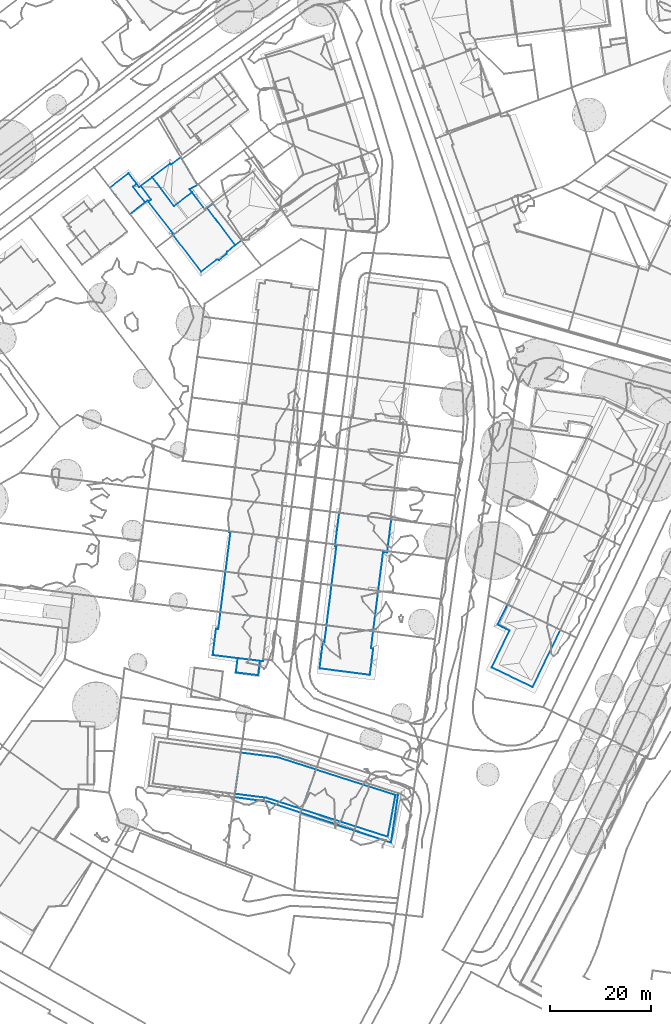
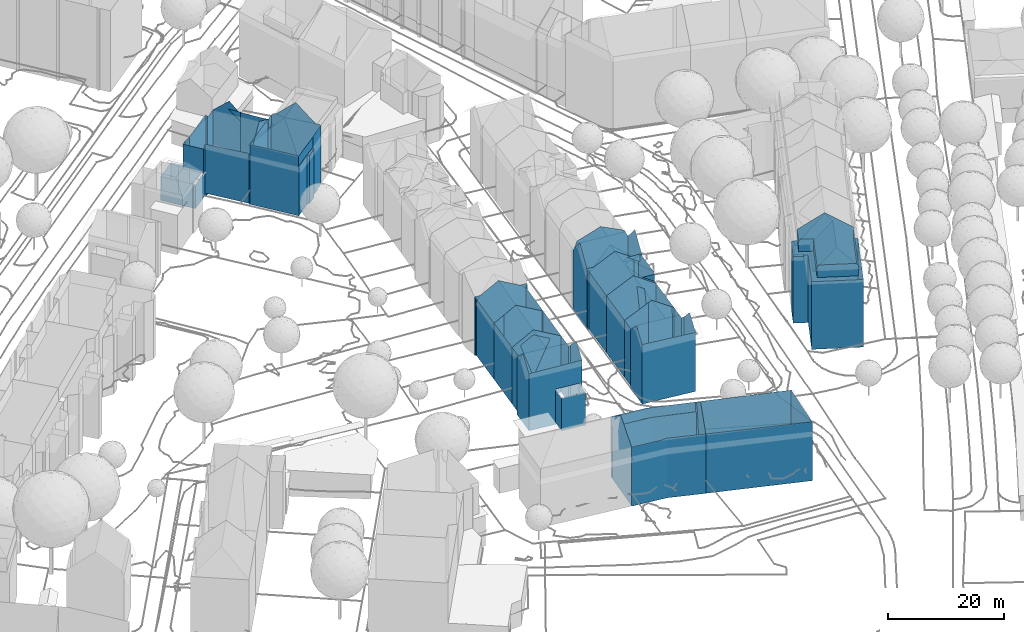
# Not in any storey, part 38 of 477: 13 walls.
"""IFC4 building model written with IfcOpenShell, lengths in metres."""

import ifcopenshell
import ifcopenshell.guid

model = None  # the IFC model being written
_history = None  # IfcOwnerHistory: only IFC2X3 demands one
_inside = {}  # id of a spatial element -> (the spatial element, [elements in it])
_under = {}  # id of a project, library or spatial element -> (it, [spatial elements below it])
_declared = {}  # id of a project -> (the project, [libraries it declares])
_typed = {}  # id of a type object -> (the type object, [elements of that type])
_made_of = {}  # id of a material, layer set ... -> (it, [elements and type objects made of it])


def new_model(schema):
    """Start an empty IFC model of exactly this schema.

    Asked for "IFC4X3", IfcOpenShell would pick the latest addendum, in which some entities
    have other attributes; the version numbers below select the first issue.
    IFC2X3 requires an IfcOwnerHistory on every rooted entity: one is made here for all.
    """
    global model, _history
    if schema == "IFC4X3":
        model = ifcopenshell.file(schema_version=(4, 3, 0, 0))
    else:
        model = ifcopenshell.file(schema=schema)
    _inside.clear()
    _under.clear()
    _declared.clear()
    _typed.clear()
    _made_of.clear()
    _history = None
    if model.schema == "IFC2X3":
        org = make("IfcOrganization", Name="unknown")
        user = make(
            "IfcPersonAndOrganization",
            ThePerson=make("IfcPerson", FamilyName="unknown"),
            TheOrganization=org,
        )
        app = make(
            "IfcApplication",
            ApplicationDeveloper=org,
            Version="unknown",
            ApplicationFullName="unknown",
            ApplicationIdentifier="unknown",
        )
        _history = make(
            "IfcOwnerHistory",
            OwningUser=user,
            OwningApplication=app,
            ChangeAction="ADDED",
            CreationDate=0,
        )
    return model


def make(cls, **values):
    """One entity of the class cls with the attributes given. An attribute that is None is left unset."""
    return model.create_entity(
        cls, **{name: value for name, value in values.items() if value is not None}
    )


def rooted(cls, **values):
    """An entity with a GlobalId (a new one), such as an element, a storey or a relation."""
    return make(cls, GlobalId=ifcopenshell.guid.new(), OwnerHistory=_history, **values)


def si_unit(unit_type, name, prefix=None):
    """IfcSIUnit, for example si_unit("LENGTHUNIT", "METRE", prefix="MILLI")."""
    return make("IfcSIUnit", UnitType=unit_type, Prefix=prefix, Name=name)


def assignment(units):
    """IfcUnitAssignment: the units of a project."""
    return None if units is None else make("IfcUnitAssignment", Units=units)


def point(xyz):
    """IfcCartesianPoint."""
    return None if xyz is None else make("IfcCartesianPoint", Coordinates=xyz)


def direction(xyz):
    """IfcDirection."""
    return None if xyz is None else make("IfcDirection", DirectionRatios=xyz)


def frame(location, z_axis=None, x_axis=None):
    """IfcAxis2Placement3D, a coordinate frame: its origin and axes. An axis left out is left unset."""
    return make(
        "IfcAxis2Placement3D",
        Location=point(location),
        Axis=direction(z_axis),
        RefDirection=direction(x_axis),
    )


def origin_with_axes():
    """The frame at (0, 0, 0) with the z axis (0, 0, 1) and the x axis (1, 0, 0) written out."""
    return frame((0.0, 0.0, 0.0), z_axis=(0.0, 0.0, 1.0), x_axis=(1.0, 0.0, 0.0))


def place(relative_to, where):
    """IfcLocalPlacement: puts the frame where relative to a parent placement (None: the world)."""
    return make(
        "IfcLocalPlacement", PlacementRelTo=relative_to, RelativePlacement=where
    )


def context(
    kind, dimensions, precision=None, world=None, true_north=None, identifier=None
):
    """IfcGeometricRepresentationContext, for example the 3D "Model" context."""
    return make(
        "IfcGeometricRepresentationContext",
        ContextIdentifier=identifier,
        ContextType=kind,
        CoordinateSpaceDimension=dimensions,
        Precision=precision,
        WorldCoordinateSystem=world,
        TrueNorth=true_north,
    )


def subcontext(parent, identifier, kind, view, scale=None):
    """IfcGeometricRepresentationSubContext, for example "Body" below "Model"."""
    return make(
        "IfcGeometricRepresentationSubContext",
        ContextIdentifier=identifier,
        ContextType=kind,
        ParentContext=parent,
        TargetScale=scale,
        TargetView=view,
    )


def project(units=None, contexts=None):
    """IfcProject with its units and contexts."""
    return rooted(
        "IfcProject",
        Name="project",
        RepresentationContexts=contexts,
        UnitsInContext=assignment(units),
    )


def spatial(cls, under=None, at=None, **own):
    """A site, building, storey or space (cls), placed at a placement, below another one or the project."""
    s = rooted(cls, ObjectPlacement=at, **own)
    if under is not None:
        _under.setdefault(under.id(), (under, []))[1].append(s)
    return s


def point_list(points):
    """IfcCartesianPointList2D or 3D."""
    cls = (
        "IfcCartesianPointList2D" if len(points[0]) == 2 else "IfcCartesianPointList3D"
    )
    return make(cls, CoordList=points)


def polygons(points, faces, closed=None, point_numbers=None):
    """IfcPolygonalFaceSet: a face is its outer loop, then its inner loops; points numbered from 1."""
    made = []
    for loops in faces:
        if len(loops) == 1:
            made.append(make("IfcIndexedPolygonalFace", CoordIndex=loops[0]))
        else:
            made.append(
                make(
                    "IfcIndexedPolygonalFaceWithVoids",
                    CoordIndex=loops[0],
                    InnerCoordIndices=loops[1:],
                )
            )
    return make(
        "IfcPolygonalFaceSet",
        Coordinates=point_list(points),
        Closed=closed,
        Faces=made,
        PnIndex=point_numbers,
    )


def shape(context_of_items, identifier, shape_type, items):
    """IfcShapeRepresentation: the items that make up one representation, for example the "Body"."""
    return make(
        "IfcShapeRepresentation",
        ContextOfItems=context_of_items,
        RepresentationIdentifier=identifier,
        RepresentationType=shape_type,
        Items=items,
    )


def made_of(thing, what):
    """Note that an element or type object is made of a material, layer set ...; save() writes the relation."""
    if what is not None:
        _made_of.setdefault(what.id(), (what, []))[1].append(thing)
    return thing


def element(
    cls,
    number,
    at=None,
    inside=None,
    cuts=None,
    type_object=None,
    material=None,
    context=None,
    identifier="Body",
    shape_type=None,
    held_by="IfcProductDefinitionShape",
    body=None,
    shapes=None,
    **own,
):
    """One element of the class cls, such as IfcWall. Its Tag is "e" and its number.

    at: its placement. inside: the storey or other place that contains it. cuts: it is an
    opening in that element (IfcRelVoidsElement). A single representation is given by context,
    identifier, shape_type and body (its items); several are given by shapes. held_by: the class
    of the entity that holds the representations. save() writes the other relations.
    """
    e = rooted(cls, Tag="e%d" % number, ObjectPlacement=at, **own)
    if body is not None:
        shapes = [shape(context, identifier, shape_type, body)]
    if shapes is not None:
        e.Representation = make(held_by, Representations=shapes)
    if inside is not None:
        _inside.setdefault(inside.id(), (inside, []))[1].append(e)
    if cuts is not None:
        rooted(
            "IfcRelVoidsElement", RelatingBuildingElement=cuts, RelatedOpeningElement=e
        )
    if type_object is not None:
        _typed.setdefault(type_object.id(), (type_object, []))[1].append(e)
    return made_of(e, material)


def aggregate(whole, parts):
    """IfcRelAggregates: a whole, such as a stair, and the parts it consists of."""
    return rooted("IfcRelAggregates", RelatingObject=whole, RelatedObjects=parts)


def save(model, path):
    """Write the relations noted so far, then the file.

    IfcRelAggregates (storeys below a building ...), IfcRelContainedInSpatialStructure (elements
    in a storey), IfcRelDefinesByType, IfcRelAssociatesMaterial and IfcRelDeclares: one each for
    every whole, place, type object, material and project.
    """
    for whole, parts in _under.values():
        aggregate(whole, parts)
    for where, things in _inside.values():
        rooted(
            "IfcRelContainedInSpatialStructure",
            RelatedElements=things,
            RelatingStructure=where,
        )
    for kind, things in _typed.values():
        rooted("IfcRelDefinesByType", RelatedObjects=things, RelatingType=kind)
    for what, things in _made_of.values():
        rooted("IfcRelAssociatesMaterial", RelatedObjects=things, RelatingMaterial=what)
    for by, libraries in _declared.values():
        rooted("IfcRelDeclares", RelatingContext=by, RelatedDefinitions=libraries)
    model.write(path)


model = new_model("IFC4")

# Units and contexts
model_context = context("Model", 3, precision=1e-05, world=origin_with_axes())
body_context = subcontext(model_context, "Body", "Model", "MODEL_VIEW")
ifc_project = project(units=[si_unit("AREAUNIT", "SQUARE_METRE"), si_unit("LENGTHUNIT", "METRE")], contexts=[model_context])

# Sites, building
site_1_placement = place(None, origin_with_axes())
site_1 = spatial("IfcSite", under=ifc_project, at=site_1_placement, Name="Topoexport Site")
site_2_placement = place(site_1_placement, origin_with_axes())
site_2 = spatial("IfcSite", under=site_1, at=site_2_placement, Name="TPX_BUILDINGS")
building_1_placement = place(site_2_placement, frame((489.4687320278, 34.2352160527, 498.9664), z_axis=(0.0, 0.0, 1.0), x_axis=(1.0, 0.0, 0.0)))
building_1 = spatial("IfcBuilding", under=site_2, at=building_1_placement, Name="Building 15", CompositionType="ELEMENT")

# Wall
wall_1_placement = place(None, frame((489.4687320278, 34.2352160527, 498.9664), z_axis=(0.0, 0.0, 1.0), x_axis=(1.0, 0.0, 0.0)))
element("IfcWall", 1, at=wall_1_placement, inside=building_1, Name="Wall 0", context=body_context, shape_type="Tessellation", body=[
    polygons([(7.8599999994, -2.4902999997, 16.6274), (10.3259999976, 2.6297999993, 16.6284), (12.7919999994, 7.7509000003, 14.2667), (7.8599999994, -2.4902999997, 14.2667), (4.0260000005, 11.9774999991, 14.2667), (3.4829999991, 10.8515000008, 16.6475), (2.5659999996, 8.9481999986, 14.2667), (2.7929999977, 7.6347000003, 14.0227), (2.9379999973, 7.936499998, 14.2667), (2.7929999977, 7.6347000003, 14.2667), (0.0, 0.0, 0.0), (3.5139999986, 7.2840999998, 14.2667), (0.0, 0.0, 14.2667), (8.0909999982, -3.8643000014, 0.0), (8.0909999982, -3.8643000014, 14.2667), (13.5309999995, 7.3944999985, 0.0), (13.5309999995, 7.3944999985, 14.2667), (4.7939999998, 7.6063999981, 16.6434), (1.4230000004, 0.6092999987, 14.2667), (4.8990000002, 7.8242000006, 14.2667), (1.4230000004, 0.6092999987, 16.6434), (4.8990000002, 7.8242000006, 16.8884), (7.4649999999, -2.3007999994, 16.9194), (1.7850000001, 0.4354999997, 16.9184), (1.7850000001, 0.4354999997, 14.2667), (2.5659999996, 8.9481999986, 16.6474), (2.8809999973, 8.7967999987, 16.8884), (3.1030000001, 12.4228000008, 0.0001), (1.1679999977, 8.4237999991, 14.0257), (1.1679999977, 8.4237999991, 0.0001), (3.1030000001, 12.4228000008, 14.0497), (1.1779999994, 8.4442999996, 14.0427), (3.5139999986, 7.2840999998, 0.0), (3.3499999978, 12.3037, 14.2667), (8.311999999, 9.9100999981, 0.0), (3.3530000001, 12.3016999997, 0.0001), (3.2719999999, 12.3407999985, 0.0001), (12.7919999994, 7.7509000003, 0.0), (8.311999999, 9.9100999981, 19.9281), (4.0260000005, 11.9774999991, 16.6485), (12.7919999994, 7.7509000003, 16.6284)], [[[3, 2, 1]], [[3, 1, 4]], [[7, 6, 5]], [[10, 9, 8]], [[13, 12, 11]], [[15, 13, 14]], [[17, 15, 16]], [[20, 19, 18]], [[18, 19, 21]], [[20, 18, 22]], [[4, 1, 23]], [[23, 24, 4]], [[4, 24, 25]], [[25, 21, 19]], [[21, 25, 24]], [[20, 22, 7]], [[27, 26, 22]], [[7, 22, 26]], [[30, 29, 28]], [[29, 32, 31]], [[29, 31, 28]], [[8, 33, 12]], [[10, 8, 12]], [[29, 30, 8]], [[8, 30, 33]], [[31, 34, 5]], [[3, 35, 5]], [[31, 5, 36]], [[37, 28, 31]], [[37, 31, 36]], [[5, 35, 36]], [[35, 3, 38]], [[5, 40, 39]], [[5, 39, 3]], [[17, 16, 3]], [[16, 38, 3]], [[3, 39, 41]], [[41, 2, 3]], [[6, 7, 26]], [[40, 5, 6]], [[12, 33, 11]], [[13, 11, 14]], [[15, 14, 16]]]),
])

# Building
building_2_placement = place(site_2_placement, frame((434.497732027, 36.682416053, 499.5704), z_axis=(0.0, 0.0, 1.0), x_axis=(1.0, 0.0, 0.0)))
building_2 = spatial("IfcBuilding", under=site_2, at=building_2_placement, Name="Building 42", CompositionType="ELEMENT")

# Wall
wall_2_placement = place(None, frame((434.497732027, 36.682416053, 499.5704), z_axis=(0.0, 0.0, 1.0), x_axis=(1.0, 0.0, 0.0)))
element("IfcWall", 2, at=wall_2_placement, inside=building_2, Name="Wall 0", context=body_context, shape_type="Tessellation", body=[
    polygons([(0.6559999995, 5.2089999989, 7.5503), (1.1019999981, 5.1532999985, 12.0749), (0.6559999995, 5.2089999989, 12.0809), (0.6559999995, 5.2089999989, 0.0001), (1.1019999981, 5.1532999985, 9.0552), (1.1019999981, 5.1532999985, 6.0345), (1.1019999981, 5.1532999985, 0.0001), (1.1019999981, 5.1532999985, 3.0148), (4.5639999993, -3.4218000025, 0.454), (4.9129999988, -0.6094000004, 7.4243), (4.5639999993, -3.4219000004, 7.4243), (8.9620000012, -3.9814000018, 0.454), (8.9620000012, -3.9814000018, 7.4243), (9.3139999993, -1.1552000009, 0.454), (9.3139999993, -1.1552000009, 7.4243), (9.5769999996, -1.188500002, 0.454), (9.5769999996, -1.188500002, 7.4243), (9.5789999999, -1.1737999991, 0.454), (9.5789999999, -1.1737999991, 7.4243), (10.2470000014, 4.1396999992, 11.8349), (10.6510000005, 7.3222999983, 0.0), (10.2470000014, 4.1396999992, 0.0), (10.2329999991, 4.0313000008, 0.0), (10.2329999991, 4.0313000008, 11.9389), (10.6510000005, 7.3222999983, 11.8539), (10.5500000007, 3.9912, 11.9359), (10.5500000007, 3.9912, 0.0), (10.4959999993, 3.5683999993, 12.3429), (9.8889999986, -1.2109000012, 12.1769), (10.2080000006, 1.2989000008, 14.5296), (10.2080000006, 1.2989000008, 0.0), (9.8889999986, -1.2109000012, 0.0), (1.5179999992, 8.4609999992, 11.8989), (1.1220000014, 5.3095999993, 11.9249), (1.5179999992, 8.4609999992, 0.0001), (5.4829999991, 7.9668000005, 0.0001), (5.4829999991, 7.9668000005, 14.5297), (0.0, 0.0, 0.0), (0.3359999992, 2.6660000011, 0.0), (0.0, 0.0, 12.0309), (0.2340000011, 1.8554999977, 13.7707), (0.3359999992, 2.6660000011, 14.5297), (7.2369999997, -0.8905999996, 12.1339), (4.7949999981, -0.5956999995, 0.0), (4.7939999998, -0.5956999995, 12.0939), (4.9129999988, -0.6093000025, 0.454)], [[[3, 2, 1]], [[5, 4, 2]], [[6, 4, 5]], [[8, 7, 4]], [[11, 10, 9]], [[13, 11, 12]], [[15, 13, 14]], [[17, 15, 16]], [[19, 17, 18]], [[22, 21, 20]], [[23, 22, 20]], [[20, 24, 23]], [[25, 20, 21]], [[24, 26, 23]], [[23, 26, 27]], [[29, 26, 28]], [[29, 28, 30]], [[32, 31, 26]], [[27, 26, 31]], [[26, 29, 32]], [[34, 33, 5]], [[5, 2, 34]], [[33, 35, 5]], [[6, 35, 8]], [[35, 6, 5]], [[7, 8, 35]], [[35, 33, 36]], [[36, 33, 25]], [[36, 25, 21]], [[25, 33, 37]], [[40, 39, 38]], [[4, 40, 1]], [[40, 4, 39]], [[1, 40, 41]], [[41, 3, 1]], [[3, 41, 42]], [[29, 19, 32]], [[19, 29, 43]], [[18, 32, 19]], [[44, 32, 18]], [[19, 43, 10]], [[45, 10, 43]], [[45, 40, 10]], [[10, 40, 38]], [[38, 44, 46]], [[46, 10, 38]], [[46, 44, 18]], [[2, 4, 1]], [[6, 8, 4]], [[10, 46, 9]], [[11, 9, 12]], [[13, 12, 14]], [[15, 14, 16]], [[17, 16, 18]]]),
])

# Building
building_3_placement = place(site_2_placement, frame((437.0167320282, 53.1053160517, 499.5705), z_axis=(0.0, 0.0, 1.0), x_axis=(1.0, 0.0, 0.0)))
building_3 = spatial("IfcBuilding", under=site_2, at=building_3_placement, Name="Building 43", CompositionType="ELEMENT")

# Wall
wall_3_placement = place(None, frame((437.0167320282, 53.1053160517, 499.5705), z_axis=(0.0, 0.0, 1.0), x_axis=(1.0, 0.0, 0.0)))
element("IfcWall", 3, at=wall_3_placement, inside=building_3, Name="Wall 0", context=body_context, shape_type="Tessellation", body=[
    polygons([(0.5899999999, 4.6933000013, 0.0), (0.5519999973, 4.3857000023, 11.8158), (0.2280000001, 1.8125, 0.0), (0.2449999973, 1.9472000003, 11.8318), (0.0, 0.0, 11.8448), (0.0, 0.0, 0.0), (0.9769999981, 7.7666000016, 0.0), (0.9329999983, 7.4169999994, 11.7958), (1.7649999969, -0.2216999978, 0.0), (1.7649999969, -0.2216999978, 13.0037), (1.8079999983, 7.8553999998, 0.0), (4.6549999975, 7.4990000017, 0.0), (1.8079999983, 7.8553999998, 12.3228), (4.0639999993, -0.5097999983, 0.0), (4.0639999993, -0.5097999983, 14.5296), (5.1639999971, 7.4354999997, 0.0), (4.6549999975, 7.4990000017, 14.1926), (0.9769999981, 7.7666000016, 12.1288), (0.743999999, 7.9882999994, 0.0), (0.743999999, 7.9882999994, 12.3058), (0.7619999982, 7.7928999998, 0.0), (0.7619999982, 7.7928999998, 12.1258), (10.4389999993, 6.5243999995, 0.0), (10.1229999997, 6.5644000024, 0.0), (10.1229999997, 6.5644000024, 12.2328), (10.4579999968, 6.6728000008, 12.3748), (10.4709999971, 6.7723999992, 12.4688), (10.4709999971, 6.7723999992, 0.0), (9.1739999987, 6.9345000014, 0.0), (9.1739999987, 6.9345000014, 12.4528), (9.8530000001, 4.4394000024, 11.9318), (9.6719999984, 3.0175999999, 0.0), (9.1429999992, -1.1475000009, 0.0), (9.1429999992, -1.1475000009, 11.8998), (5.1639999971, 7.4354999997, 14.5296), (10.0839999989, 6.2567999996, 11.9418), (10.4389999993, 6.5243999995, 12.2358)], [[[3, 2, 1]], [[3, 5, 4]], [[5, 3, 6]], [[8, 7, 2]], [[2, 7, 1]], [[10, 5, 9]], [[13, 12, 11]], [[15, 10, 14]], [[17, 16, 12]], [[18, 7, 8]], [[20, 11, 19]], [[22, 19, 21]], [[19, 22, 20]], [[21, 7, 18]], [[25, 24, 23]], [[28, 27, 26]], [[28, 26, 23]], [[30, 27, 29]], [[27, 28, 29]], [[32, 24, 31]], [[31, 34, 33]], [[31, 33, 32]], [[35, 30, 16]], [[34, 14, 33]], [[14, 34, 15]], [[4, 2, 3]], [[5, 6, 9]], [[17, 12, 13]], [[10, 9, 14]], [[35, 16, 17]], [[13, 11, 20]], [[18, 22, 21]], [[25, 36, 24]], [[37, 25, 23]], [[37, 23, 26]], [[24, 36, 31]], [[30, 29, 16]]]),
])

# Building
building_4_placement = place(site_2_placement, frame((436.0157320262, 45.1434160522, 499.5705), z_axis=(0.0, 0.0, 1.0), x_axis=(1.0, 0.0, 0.0)))
building_4 = spatial("IfcBuilding", under=site_2, at=building_4_placement, Name="Building 51", CompositionType="ELEMENT")

# Wall
wall_4_placement = place(None, frame((436.0157320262, 45.1434160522, 499.5705), z_axis=(0.0, 0.0, 1.0), x_axis=(1.0, 0.0, 0.0)))
element("IfcWall", 4, at=wall_4_placement, inside=building_4, Name="Wall 0", context=body_context, shape_type="Tessellation", body=[
    polygons([(0.3949999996, 3.1444999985, 0.0), (0.0670000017, 0.5340999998, 11.8938), (0.0, 0.0, 0.0), (0.4820000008, 3.8300000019, 11.8718), (0.7679999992, 6.1053999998, 0.0), (1.001000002, 7.9618999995, 11.8448), (1.001000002, 7.9618999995, 0.0), (2.7659999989, 7.7402000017, 0.0), (2.7659999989, 7.7402000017, 13.0037), (0.0, 0.0, 11.8988), (3.9649999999, -0.4941999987, 0.0), (3.9649999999, -0.4941999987, 14.5296), (5.0650000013, 7.4510999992, 0.0), (9.1330000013, -1.1387000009, -0.0001), (9.3740000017, 0.753899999, 11.8648), (9.5500000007, 2.1444999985, -0.0001), (10.1440000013, 6.8143999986, 0.0), (9.7860000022, 3.996100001, 11.8828), (10.1440000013, 6.8143999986, 11.8998), (9.8909999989, 4.8260999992, 0.0), (5.0650000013, 7.4510999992, 14.5296), (9.1330000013, -1.1387000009, 11.8538)], [[[3, 2, 1]], [[1, 2, 4]], [[4, 5, 1]], [[7, 4, 6]], [[4, 7, 5]], [[6, 8, 7]], [[8, 6, 9]], [[2, 3, 10]], [[12, 10, 11]], [[9, 13, 8]], [[16, 15, 14]], [[19, 18, 17]], [[20, 18, 16]], [[18, 20, 17]], [[21, 19, 13]], [[14, 22, 12]], [[11, 14, 12]], [[10, 3, 11]], [[21, 13, 9]], [[18, 15, 16]], [[22, 14, 15]], [[19, 17, 13]]]),
])

# Building
building_5_placement = place(site_2_placement, frame((456.9307320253, 42.5213160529, 499.4054), z_axis=(0.0, 0.0, 1.0), x_axis=(1.0, 0.0, 0.0)))
building_5 = spatial("IfcBuilding", under=site_2, at=building_5_placement, Name="Building 53", CompositionType="ELEMENT")

# Wall
wall_5_placement = place(None, frame((456.9307320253, 42.5213160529, 499.4054), z_axis=(0.0, 0.0, 1.0), x_axis=(1.0, 0.0, 0.0)))
element("IfcWall", 5, at=wall_5_placement, inside=building_5, Name="Wall 0", context=body_context, shape_type="Tessellation", body=[
    polygons([(10.1860000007, 6.7793000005, 0.0), (9.1860000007, -1.1669999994, 0.0), (10.1860000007, 6.7793000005, 12.2009), (8.0789999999, 7.0487999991, 0.0), (8.0789999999, 7.0487999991, 13.5817), (8.7890000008, -1.1162, 0.0), (9.1860000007, -1.1669999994, 12.2589), (5.9710000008, 7.316399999, 0.0), (5.9710000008, 7.316399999, 14.9436), (0.0, 0.0, 0.0), (0.3390000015, 2.7157999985, 0.0), (0.387000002, 3.0986000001, 12.0669), (0.9930000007, 7.9501999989, 0.0001), (0.9930000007, 7.9501999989, 12.0879), (5.0370000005, -0.6396999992, 14.9436), (0.0, 0.0, 12.0539), (8.807, -1.1182000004, 12.5078)], [[[3, 2, 1]], [[5, 3, 4]], [[7, 6, 2]], [[9, 5, 8]], [[12, 11, 10]], [[14, 13, 12]], [[13, 11, 12]], [[15, 10, 6]], [[16, 10, 15]], [[13, 14, 9]], [[8, 13, 9]], [[7, 2, 3]], [[3, 1, 4]], [[17, 6, 7]], [[15, 6, 17]], [[5, 4, 8]], [[10, 16, 12]]]),
])

# Building
building_6_placement = place(site_2_placement, frame((457.923732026, 50.4715160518, 499.4055), z_axis=(0.0, 0.0, 1.0), x_axis=(1.0, 0.0, 0.0)))
building_6 = spatial("IfcBuilding", under=site_2, at=building_6_placement, Name="Building 56", CompositionType="ELEMENT")

# Wall
wall_6_placement = place(None, frame((457.923732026, 50.4715160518, 499.4055), z_axis=(0.0, 0.0, 1.0), x_axis=(1.0, 0.0, 0.0)))
element("IfcWall", 6, at=wall_6_placement, inside=building_6, Name="Wall 0", context=body_context, shape_type="Tessellation", body=[
    polygons([(9.2679999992, -0.5762000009, 13.7096), (7.0329999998, -0.3125, 13.6596), (6.9499999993, -0.3027999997, 13.7096), (9.2679999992, -0.5762000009, 12.1958), (10.0870000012, 5.9248000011, 13.7486), (7.6480000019, 6.1435000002, 13.7486), (9.1390000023, 6.0097000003, 12.7657), (10.0870000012, 5.9248000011, 12.1488), (10.9560000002, 6.4316000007, 12.3108), (10.9560000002, 6.4316000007, 0.0), (10.1630000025, 6.5322000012, 12.3188), (10.1630000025, 6.5322000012, 0.0), (10.1630000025, 6.5322000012, 3.0797), (10.9730000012, 6.5713, 4.2065), (10.9869999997, 6.6797000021, 3.1456), (10.9869999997, 6.6797000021, 6.3143), (10.9869999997, 6.6797000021, 0.0), (0.699000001, 7.8652000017, 4.6205), (0.6999999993, 7.875, 12.5668), (0.6830000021, 7.7362999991, 0.0), (0.7149999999, 7.9941000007, 0.0), (0.6830000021, 7.7362999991, 12.4158), (0.9609999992, 7.7010999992, 9.3091), (0.9609999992, 7.7010999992, 12.4128), (0.9609999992, 7.7012000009, 0.0), (0.9609999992, 7.7012000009, 6.2054), (0.0, 0.0, 0.0), (0.0, 0.0, 12.0878), (0.9270000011, 7.4307000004, 12.1178), (9.193, -1.1699000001, -0.0001), (4.9780000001, -0.6338, 14.9435), (7.0859999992, -0.9013999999, 13.5816), (9.193, -1.1699000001, 12.2008), (4.9780000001, -0.6338, -0.0001), (7.0859999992, -0.9013999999, -0.0001), (5.9140000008, 7.3291000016, 14.9435), (1.9719999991, 7.8330000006, 12.6817), (5.9140000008, 7.3291000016, 0.0), (6.3570000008, 7.2723999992, 14.6575), (0.7149999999, 7.9941000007, 12.6957), (1.9719999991, 7.8330000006, 0.0), (6.3570000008, 7.2723999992, 0.0), (9.5350000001, 6.8662, 12.5977), (9.3990000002, 6.8828000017, 12.6627), (10.9869999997, 6.6797000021, 12.5817), (9.3990000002, 6.8828000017, 0.0), (9.5350000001, 6.8662, 0.0), (10.1460000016, 6.3973999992, 12.1728), (10.1630000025, 6.5322000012, 9.2231), (10.1339999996, 6.2998000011, 12.1458), (10.0940000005, 5.9834000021, 0.0), (9.3390000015, -0.0108000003, -0.0001), (9.3390000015, -0.0108000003, 13.9596), (10.0240000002, 5.4277000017, 13.9906), (10.0240000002, 5.4248000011, 0.0), (9.2679999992, -0.5762000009, -0.0001)], [[[3, 2, 1]], [[4, 1, 2]], [[7, 6, 5]], [[7, 5, 8]], [[11, 10, 9]], [[10, 13, 12]], [[14, 9, 10]], [[16, 14, 15]], [[17, 15, 14]], [[14, 10, 17]], [[20, 19, 18]], [[18, 19, 21]], [[20, 22, 19]], [[18, 21, 20]], [[24, 20, 23]], [[26, 20, 25]], [[25, 27, 26]], [[26, 27, 28]], [[29, 24, 23]], [[26, 28, 23]], [[23, 28, 29]], [[32, 31, 30]], [[30, 33, 32]], [[31, 28, 30]], [[28, 27, 34]], [[34, 35, 28]], [[28, 35, 30]], [[38, 37, 36]], [[38, 36, 39]], [[41, 21, 40]], [[41, 40, 37]], [[37, 38, 41]], [[39, 42, 38]], [[44, 43, 16]], [[16, 43, 45]], [[44, 16, 46]], [[42, 44, 46]], [[47, 15, 17]], [[15, 47, 46]], [[16, 15, 46]], [[44, 42, 39]], [[49, 11, 48]], [[50, 8, 49]], [[48, 50, 49]], [[13, 51, 12]], [[52, 13, 49]], [[4, 49, 8]], [[54, 53, 8]], [[8, 53, 4]], [[1, 4, 53]], [[4, 33, 30]], [[52, 49, 4]], [[51, 13, 55]], [[4, 56, 52]], [[56, 4, 30]], [[13, 52, 55]], [[54, 8, 5]], [[10, 11, 49]], [[49, 13, 10]], [[16, 9, 14]], [[45, 9, 16]], [[21, 19, 40]], [[22, 20, 24]], [[26, 23, 20]]]),
])

# Building
building_7_placement = place(site_2_placement, frame((458.6387320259, 58.4656160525, 499.4055), z_axis=(0.0, 0.0, 1.0), x_axis=(1.0, 0.0, 0.0)))
building_7 = spatial("IfcBuilding", under=site_2, at=building_7_placement, Name="Building 58", CompositionType="ELEMENT")

# Wall
wall_7_placement = place(None, frame((458.6387320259, 58.4656160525, 499.4055), z_axis=(0.0, 0.0, 1.0), x_axis=(1.0, 0.0, 0.0)))
element("IfcWall", 7, at=wall_7_placement, inside=building_7, Name="Wall 0", context=body_context, shape_type="Tessellation", body=[
    polygons([(10.3729999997, -0.5078000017, 1.3898), (10.4079999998, -0.2285000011, 13.7626), (10.4959999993, 0.4765999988, 0.0), (10.6610000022, 1.7969000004, 0.0), (10.5899999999, 1.2314999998, 15.3525), (10.7880000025, 2.8134999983, 15.0635), (10.2719999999, -1.3134999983, 12.5817), (10.2719999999, -1.3134999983, 0.0), (0.1970000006, 1.5606000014, 0.0), (0.0989999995, 0.7802999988, 13.5457), (0.0989999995, 0.7802999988, 1.4758), (0.2960000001, 2.3398999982, 15.2435), (0.1970000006, 1.5606000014, 14.3946), (0.0, 0.0, 0.0), (0.4039999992, 3.1884999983, 0.0), (0.2960000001, 2.3398999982, 3.1747), (0.3949999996, 3.120099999, 16.0924), (1.2569999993, -0.1611000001, 0.0), (1.2569999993, -0.1611000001, 12.6817), (8.8200000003, -1.1279000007, 12.5977), (8.8200000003, -1.1279000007, 0.0), (5.199000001, -0.6649999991, 0.0), (5.199000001, -0.6649999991, 14.9435), (5.6420000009, -0.7217000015, 0.0), (5.6420000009, -0.7217000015, 14.6575), (11.0549999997, 4.9483000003, 12.6317), (10.3780000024, 5.0342000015, 14.1246), (11.0549999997, 4.9483000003, 0.0), (10.8269999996, 3.1270000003, 0.0), (8.6840000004, -1.1112999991, 0.0), (8.6840000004, -1.1112999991, 12.6627), (5.9360000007, 5.5986999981, 0.0), (5.9360000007, 5.5986999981, 16.0924), (1.5600000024, 6.1572999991, 0.0), (1.5480000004, 6.1581999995, 14.2016), (0.5219999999, 4.1231000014, 14.9475), (0.568, 4.4882999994, 0.0), (0.7910000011, 6.253899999, 12.5168), (0.7910000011, 6.253899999, 0.0), (0.9719999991, 6.2314999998, 12.5188), (0.0, 0.0, 12.6957), (10.6750000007, 1.9111999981, 16.0924)], [[[3, 2, 1]], [[6, 5, 4]], [[3, 4, 5]], [[2, 7, 1]], [[1, 8, 3]], [[7, 8, 1]], [[11, 10, 9]], [[9, 13, 12]], [[14, 11, 9]], [[9, 16, 15]], [[17, 15, 16]], [[19, 14, 18]], [[21, 7, 20]], [[21, 8, 7]], [[23, 19, 22]], [[25, 22, 24]], [[28, 27, 26]], [[26, 6, 29]], [[6, 4, 29]], [[31, 24, 30]], [[20, 30, 21]], [[33, 27, 32]], [[35, 32, 34]], [[38, 37, 36]], [[38, 39, 37]], [[34, 38, 40]], [[34, 39, 38]], [[5, 2, 3]], [[10, 13, 9]], [[9, 12, 16]], [[14, 41, 10]], [[10, 11, 14]], [[16, 12, 17]], [[41, 14, 19]], [[19, 18, 22]], [[23, 22, 25]], [[26, 29, 28]], [[42, 5, 6]], [[25, 24, 31]], [[31, 30, 20]], [[27, 28, 32]], [[33, 32, 35]], [[36, 37, 17]], [[37, 15, 17]], [[35, 34, 40]]]),
])

# Building
building_8_placement = place(site_2_placement, frame((455.554732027, 34.0604160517, 499.4054), z_axis=(0.0, 0.0, 1.0), x_axis=(1.0, 0.0, 0.0)))
building_8 = spatial("IfcBuilding", under=site_2, at=building_8_placement, Name="Building 60", CompositionType="ELEMENT")

# Wall
wall_8_placement = place(None, frame((455.554732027, 34.0604160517, 499.4054), z_axis=(0.0, 0.0, 1.0), x_axis=(1.0, 0.0, 0.0)))
element("IfcWall", 8, at=wall_8_placement, inside=building_8, Name="Wall 0", context=body_context, shape_type="Tessellation", body=[
    polygons([(4.9609999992, -0.6425999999, 0.0), (9.9230000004, -1.2841999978, 12.4428), (9.9230000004, -1.2841999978, 0.0), (4.9649999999, -0.6425999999, 12.4998), (0.0, 0.0, 0.0), (10.0289999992, -0.4501999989, 6.9644), (10.0839999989, -0.0137000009, 2.4998), (10.1099999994, 0.1894000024, 13.8597), (10.245000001, 1.2578000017, 14.8866), (10.245000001, 1.258700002, 0.0), (0.1490000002, 1.1777000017, 4.7756), (0.0, 0.0, 12.5568), (0.2719999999, 2.1533000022, 14.6256), (0.123999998, 0.9824000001, 13.4997), (0.2729999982, 2.1611000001, 0.0), (10.2609999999, 1.3885999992, 0.0), (10.2599999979, 1.3797999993, 14.8806), (10.5799999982, 3.9042000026, 0.0), (10.1429999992, 3.9598999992, 12.3298), (10.1429999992, 3.9598999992, 0.0), (10.4419999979, 3.9218000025, 12.3338), (10.1490000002, 4.0107000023, 12.2798), (0.9670000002, 5.1806000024, 12.2089), (0.6589999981, 5.2197000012, 12.2059), (0.9670000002, 5.1806000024, 0.0), (0.6589999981, 5.2197000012, 0.0), (0.3559999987, 2.8232000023, 14.6046), (0.3530000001, 2.7949000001, 0.0), (0.4890000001, 3.8709999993, 2.6018), (0.4459999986, 3.5380000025, 13.8887), (0.3139999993, 2.4882000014, 7.3023), (10.4699999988, 3.0331999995, 3.2477), (10.5799999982, 3.9042000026, 12.3388), (10.425999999, 2.6894000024, 13.5637), (10.3079999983, 1.7509000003, 0.0), (10.3079999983, 1.7519000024, 14.5086), (10.2850000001, 1.5751999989, 14.6856), (10.3429999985, 5.5527000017, 0.0), (10.3429999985, 5.5487999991, 12.2719), (6.4129999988, 7.821200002, 0.0), (10.1829999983, 7.3427000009, 12.5078), (6.4129999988, 7.821200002, 14.9436), (1.3759999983, 8.4598999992, 0.0), (1.2069999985, 7.1044000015, 12.0489), (1.3759999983, 8.4598999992, 12.0549), (10.561999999, 7.2928999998, 12.2589), (10.561999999, 7.2928999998, 0.0), (10.1829999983, 7.3427000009, 0.0), (0.987999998, 5.3476000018, 12.0419)], [[[3, 2, 1]], [[4, 1, 2]], [[5, 1, 4]], [[7, 6, 3]], [[10, 9, 8]], [[10, 6, 7]], [[6, 2, 3]], [[7, 3, 10]], [[12, 11, 5]], [[11, 14, 13]], [[11, 15, 5]], [[17, 9, 16]], [[9, 10, 16]], [[20, 19, 18]], [[19, 21, 18]], [[20, 22, 19]], [[25, 24, 23]], [[26, 24, 25]], [[29, 28, 27]], [[30, 24, 29]], [[29, 26, 28]], [[13, 27, 31]], [[15, 31, 28]], [[18, 33, 32]], [[36, 35, 34]], [[32, 35, 18]], [[33, 18, 21]], [[35, 36, 37]], [[37, 17, 16]], [[39, 22, 38]], [[22, 20, 38]], [[42, 41, 40]], [[25, 44, 43]], [[43, 44, 45]], [[43, 45, 42]], [[40, 43, 42]], [[47, 46, 38]], [[39, 38, 46]], [[41, 47, 48]], [[47, 41, 46]], [[12, 5, 4]], [[8, 6, 10]], [[6, 8, 2]], [[14, 11, 12]], [[13, 15, 11]], [[23, 49, 25]], [[27, 30, 29]], [[24, 26, 29]], [[13, 31, 15]], [[31, 27, 28]], [[33, 34, 32]], [[32, 34, 35]], [[35, 37, 16]], [[41, 48, 40]], [[25, 49, 44]]]),
])

# Building
building_9_placement = place(site_2_placement, frame((440.0417320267, 17.4568160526, 499.2944), z_axis=(0.0, 0.0, 1.0), x_axis=(1.0, 0.0, 0.0)))
building_9 = spatial("IfcBuilding", under=site_2, at=building_9_placement, Name="Building 67", CompositionType="ELEMENT")

# Walls
wall_9_placement = place(None, frame((440.0417320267, 17.4568160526, 499.2944), z_axis=(0.0, 0.0, 1.0), x_axis=(1.0, 0.0, 0.0)))
element("IfcWall", 9, at=wall_9_placement, inside=building_9, Name="Wall 0", context=body_context, shape_type="Tessellation", body=[
    polygons([(14.7950000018, -3.3495999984, 0.0), (7.3229999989, -0.9530999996, 10.839), (14.7950000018, -3.3495999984, 10.839), (14.9789999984, -2.8271000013, 0.0), (14.9789999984, -2.8271000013, 10.473), (0.1090000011, 0.7529999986, 0.0), (6.4149999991, -0.0672999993, 0.0), (3.057, 0.3702000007, 10.335), (6.4149999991, -0.0672999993, 7.7513), (6.4149999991, -0.0672999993, 10.335), (6.4149999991, -0.0672999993, 2.5838), (0.0, 0.0, 0.0), (0.0, 0.0, 10.839), (0.1090000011, 0.7529999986, 10.335), (7.3229999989, -0.9530999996, 0.0), (7.4470000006, -0.3993999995, 0.0), (7.4470000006, -0.3993999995, 10.465)], [[[3, 2, 1]], [[5, 1, 4]], [[8, 7, 6]], [[10, 9, 8]], [[8, 11, 7]], [[13, 6, 12]], [[6, 13, 14]], [[2, 13, 15]], [[16, 7, 11]], [[11, 9, 5]], [[5, 4, 11]], [[17, 5, 9]], [[11, 4, 16]], [[17, 9, 10]], [[2, 15, 1]], [[3, 1, 5]], [[14, 8, 6]], [[9, 11, 8]], [[13, 12, 15]]]),
])
wall_10_placement = place(None, frame((440.0417320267, 17.4568160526, 499.2944), z_axis=(0.0, 0.0, 1.0), x_axis=(1.0, 0.0, 0.0)))
element("IfcWall", 10, at=wall_10_placement, inside=building_9, Name="Wall 1", context=body_context, shape_type="Tessellation", body=[
    polygons([(6.4149999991, -0.0672999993, 12.4978), (0.1160000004, 0.7520000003, 6.1904), (0.1160000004, 0.7520000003, -0.1109), (0.1160000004, 0.7520000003, 9.3421), (4.8399999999, 0.1376999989, 12.4968), (6.4149999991, -0.0672999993, -0.111), (4.9560000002, -8.8964000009, -0.14), (12.0300000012, -11.1629999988, -0.111), (4.9560000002, -8.8964000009, -0.111), (-1.1499999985, -8.128800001, -0.14), (-1.1499999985, -8.128800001, -0.111), (14.9800000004, -2.8271000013, -0.111), (14.9800000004, -2.8271000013, 12.5398), (6.6510000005, -0.1435000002, 12.5308), (-0.5419999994, -3.8104999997, 15.7855), (-0.2149999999, -1.4891999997, 14.1117), (0.1160000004, 0.7520000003, 12.4948), (-0.5419999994, -3.8104999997, -0.111), (-0.2149999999, -1.4891999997, -0.1109), (-1.2459999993, -8.8037, -0.14), (-1.245000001, -8.8037, 10.388), (-1.2459999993, -8.8037, 12.3178), (5.2930000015, -9.6708999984, -0.14), (11.7839999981, -11.8583999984, 12.3908), (11.7839999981, -11.8583999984, -0.14), (5.2930000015, -9.6708999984, 12.4598), (13.4539999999, -7.1367000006, 15.7855), (13.4539999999, -7.1367000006, -0.111), (12.0300000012, -11.1629999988, -0.14), (4.7989999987, -9.6064000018, -0.14), (4.0300000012, -9.503899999, 12.3058)], [[[3, 2, 1]], [[5, 1, 4]], [[3, 1, 6]], [[9, 8, 7]], [[11, 9, 10]], [[1, 12, 6]], [[13, 12, 1]], [[14, 13, 1]], [[16, 4, 15]], [[4, 16, 17]], [[15, 4, 18]], [[2, 3, 19]], [[19, 18, 2]], [[2, 18, 4]], [[11, 10, 20]], [[20, 21, 11]], [[22, 15, 18]], [[18, 21, 22]], [[21, 18, 11]], [[25, 24, 23]], [[26, 23, 24]], [[27, 24, 13]], [[28, 12, 13]], [[13, 24, 28]], [[8, 25, 29]], [[25, 8, 24]], [[8, 28, 24]], [[26, 31, 30]], [[30, 23, 26]], [[31, 21, 30]], [[22, 21, 31]], [[20, 30, 21]], [[4, 1, 2]], [[5, 4, 17]], [[8, 29, 7]], [[9, 7, 10]]]),
])

# Building
building_10_placement = place(site_2_placement, frame((451.8257320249, 5.5984160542, 499.1684), z_axis=(0.0, 0.0, 1.0), x_axis=(1.0, 0.0, 0.0)))
building_10 = spatial("IfcBuilding", under=site_2, at=building_10_placement, Name="Building 68", CompositionType="ELEMENT")

# Wall
wall_11_placement = place(None, frame((451.8257320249, 5.5984160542, 499.1684), z_axis=(0.0, 0.0, 1.0), x_axis=(1.0, 0.0, 0.0)))
element("IfcWall", 11, at=wall_11_placement, inside=building_10, Name="Wall 0", context=body_context, shape_type="Tessellation", body=[
    polygons([(17.1790000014, -4.7314000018, 0.0), (18.688000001, 3.4833999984, 0.015), (17.1790000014, -4.7314000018, 0.015), (0.2460000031, 0.6953999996, 0.0), (0.2460000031, 0.6953999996, 0.015), (18.688000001, 3.4833999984, 0.0), (3.0110000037, 8.5088, 0.015), (3.2250000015, 9.0214999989, 12.6658), (3.2250000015, 9.0214999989, 0.0), (19.2580000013, 3.8544999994, 12.6848), (19.2580000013, 3.8544999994, 0.0), (3.1960000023, 9.0312999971, 12.6658), (3.1960000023, 9.0312999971, 0.0), (0.0, 0.0, 0.0), (17.8280000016, -5.9004000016, 12.3998), (17.8280000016, -5.9004000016, 0.0), (0.0, 0.0, 12.5168), (18.6110000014, -0.5595000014, 0.0), (19.2410000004, 3.7402999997, 12.7658), (1.6700000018, 4.7216999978, 0.015), (3.0110000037, 8.5088, 13.0588), (0.2470000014, 0.6933999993, 13.0158), (1.6700000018, 4.7216999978, 15.9115), (3.0110000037, 8.5088, 0.0)], [[[3, 2, 1]], [[5, 3, 4]], [[2, 7, 6]], [[10, 9, 8]], [[9, 10, 11]], [[9, 13, 12]], [[12, 8, 9]], [[16, 15, 14]], [[17, 14, 15]], [[11, 10, 18]], [[18, 10, 19]], [[16, 18, 15]], [[18, 19, 15]], [[22, 21, 20]], [[23, 21, 22]], [[14, 17, 5]], [[22, 20, 17]], [[20, 21, 12]], [[7, 13, 24]], [[13, 7, 12]], [[20, 5, 17]], [[5, 4, 14]], [[7, 20, 12]], [[2, 6, 1]], [[3, 1, 4]], [[7, 24, 6]]]),
])

# Building
building_11_placement = place(site_2_placement, frame((426.7187320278, 119.498816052, 512.4143), z_axis=(0.0, 0.0, 1.0), x_axis=(1.0, 0.0, 0.0)))
building_11 = spatial("IfcBuilding", under=site_2, at=building_11_placement, Name="Building 69", CompositionType="ELEMENT")

# Wall
wall_12_placement = place(None, frame((426.7187320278, 119.498816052, 512.4143), z_axis=(0.0, 0.0, 1.0), x_axis=(1.0, 0.0, 0.0)))
element("IfcWall", 12, at=wall_12_placement, inside=building_11, Name="Wall 0", context=body_context, shape_type="Tessellation", body=[
    polygons([(6.6579999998, 5.2696000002, -2.2258), (6.5769999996, 5.3770000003, -0.103), (6.5769999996, 5.3770000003, -2.3577), (6.6579999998, 5.2696000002, -0.103), (5.5309999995, -7.2148000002, -4.8735), (8.5729999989, -4.8535000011, -12.5948), (5.5309999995, -7.2148000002, -10.063), (5.5309999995, -7.2148000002, -12.5948), (9.0059999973, -4.9217999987, -2.5207), (9.0059999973, -4.9217999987, -12.5948), (8.5729999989, -4.8535000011, -2.2228), (6.6439999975, 5.4277999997, -12.5948), (6.7249999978, 5.3203000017, -12.4288), (6.6439999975, 5.4277999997, -12.4098), (6.7249999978, 5.3203000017, -12.4098), (12.2329999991, -2.0106999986, -12.5948), (10.5830000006, -3.3271000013, -0.103), (10.5859999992, -3.2899999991, -0.081), (10.5830000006, -3.3271000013, -2.2098), (10.5460000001, -3.7274999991, -2.4917), (10.5460000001, -3.7274999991, -12.5948), (10.5859999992, -3.2899999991, -6.7383), (10.5859999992, -3.2899000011, -12.5948), (7.8599999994, 6.1728999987, -12.4098), (7.8599999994, 6.1728999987, -0.103), (13.4690000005, -1.0507999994, -12.4288), (12.2329999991, -2.0106999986, -12.4288), (13.4679999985, -1.0516999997, -0.036), (13.4690000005, -1.0507999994, -2.1288), (6.3579999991, 4.9307000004, 0.134), (6.3579999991, 4.9307000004, -12.5948), (6.2179999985, 5.1006000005, -12.5948), (6.2179999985, 5.1006000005, 0.139), (8.5649999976, -4.8427000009, -2.2108), (5.4859999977, -7.1561999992, -0.103), (5.4859999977, -7.1561999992, -2.2098), (7.7679999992, 6.2910000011, -2.3737), (7.7679999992, 6.2910000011, -12.4098), (3.231999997, 2.504900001, 2.2438), (1.6629999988, 1.2890999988, 0.047), (0.0009999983, -0.0009000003, -2.2828), (0.0810000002, 0.0625, 0.072), (0.0, 0.0, 0.0), (3.2309999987, 2.5058999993, -12.5948), (0.0009999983, -0.0009000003, -12.5948), (8.0909999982, 5.875, -12.4288), (7.8599999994, 6.1728999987, -12.4288), (13.3479999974, -0.8973999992, -12.4288), (7.8599999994, 6.1728999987, -2.2258), (8.3399999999, 5.5547000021, 0.204), (8.0909999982, 5.875, 0.208), (12.8539999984, -0.2588, 0.125), (10.6030000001, 2.6387000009, 3.5887), (13.3479999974, -0.8973999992, 0.116), (5.5309999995, -7.2148000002, -2.2808), (5.3579999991, -6.9891999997, 0.061)], [[[3, 2, 1]], [[4, 1, 2]], [[7, 6, 5]], [[7, 8, 6]], [[10, 9, 6]], [[9, 11, 6]], [[14, 13, 12]], [[13, 14, 15]], [[12, 13, 16]], [[19, 18, 17]], [[21, 20, 9]], [[9, 10, 21]], [[18, 19, 22]], [[22, 19, 23]], [[19, 20, 23]], [[23, 20, 21]], [[15, 24, 13]], [[4, 25, 1]], [[27, 26, 22]], [[16, 27, 22]], [[22, 23, 16]], [[18, 29, 28]], [[18, 22, 29]], [[29, 22, 26]], [[32, 31, 30]], [[30, 33, 32]], [[19, 17, 34]], [[34, 17, 35]], [[36, 34, 35]], [[33, 2, 3]], [[3, 37, 32]], [[33, 3, 32]], [[38, 14, 37]], [[12, 32, 14]], [[14, 32, 37]], [[40, 39, 30]], [[43, 42, 41]], [[41, 42, 40]], [[40, 30, 41]], [[30, 31, 44]], [[44, 45, 30]], [[30, 45, 41]], [[24, 38, 37]], [[24, 37, 46]], [[37, 29, 46]], [[46, 47, 24]], [[29, 48, 46]], [[29, 37, 49]], [[25, 51, 50]], [[50, 53, 52]], [[52, 49, 50]], [[48, 29, 26]], [[52, 54, 28]], [[52, 28, 29]], [[52, 29, 49]], [[49, 25, 50]], [[5, 55, 36]], [[7, 5, 41]], [[41, 36, 56]], [[56, 36, 35]], [[41, 56, 43]], [[45, 8, 7]], [[7, 41, 45]], [[5, 36, 41]], [[11, 55, 6]], [[6, 55, 5]], [[13, 27, 16]], [[24, 47, 13]], [[25, 49, 1]]]),
])

# Building
building_12_placement = place(site_2_placement, frame((414.2377320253, 128.8357160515, 499.3706), z_axis=(0.0, 0.0, 1.0), x_axis=(1.0, 0.0, 0.0)))
building_12 = spatial("IfcBuilding", under=site_2, at=building_12_placement, Name="Building 72", CompositionType="ELEMENT")

# Wall
wall_13_placement = place(None, frame((414.2377320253, 128.8357160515, 499.3706), z_axis=(0.0, 0.0, 1.0), x_axis=(1.0, 0.0, 0.0)))
element("IfcWall", 13, at=wall_13_placement, inside=building_12, Name="Wall 0", context=body_context, shape_type="Tessellation", body=[
    polygons([(16.1400000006, -0.0751999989, 10.763), (16.1400000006, -0.0751999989, 12.9407), (14.6660000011, 1.8858000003, 12.9408), (13.9790000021, 6.0322999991, 0.261), (14.0380000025, 5.9433999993, 0.261), (13.9790000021, 6.0322999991, 10.562), (16.194000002, -0.9316000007, 0.261), (12.6410000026, -3.6015000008, 0.4489), (16.194000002, -0.9316000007, 0.4489), (12.4820000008, -9.3377999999, 5.6044), (12.3480000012, -9.1611000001, 10.7599), (12.4820000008, -9.3377999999, 10.7609), (12.4820000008, -9.3377999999, 0.4489), (12.3480000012, -9.1611000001, 0.4489), (6.9299999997, -2.9043000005, 5.0155), (4.5710000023, 0.2364000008, 5.0155), (6.9299999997, -2.9043000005, 10.125), (12.4979999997, -9.0438999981, 10.9699), (12.4979999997, -9.0438999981, 0.4489), (5.2790000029, 0.7675999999, 10.125), (4.5710000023, 0.2364000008, 10.125), (0.0, 0.0, 0.0), (3.6920000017, 2.8438000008, 5.0155), (0.0, 0.0, 5.0155), (1.0840000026, -1.4442999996, 0.0), (1.0840000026, -1.4442999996, 5.0155), (3.9649999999, -5.1884000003, 0.0), (3.9649999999, -5.1884000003, 5.0155), (8.1280000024, -2.3574000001, 0.0), (7.5850000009, -2.7645999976, 0.449), (8.1280000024, -2.3574000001, 0.449), (6.1000000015, 0.3428000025, 0.0), (6.1000000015, 0.3428000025, 0.449), (15.7190000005, -0.307599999, 0.261), (17.2589999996, 0.5439999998, 10.606), (17.2589999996, 0.5439999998, 0.261), (15.9890000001, -0.1590999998, 13.0327), (15.7190000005, -0.307599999, 13.1957), (18.7039999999, -4.2333999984, 0.4489), (18.8390000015, -4.4061999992, 13.1777), (18.7039999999, -4.2333999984, 13.1827), (18.8390000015, -4.4061999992, 0.4489), (11.824000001, 4.7520000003, 10.856), (11.824000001, 4.7520000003, 0.261), (12.0089999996, 4.5146999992, 0.261), (12.0089999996, 4.5146999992, 10.85), (10.3830000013, -0.5956999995, 0.449), (12.6410000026, -3.6015000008, 0.261), (8.3660000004, 2.0888999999, 0.261), (8.3660000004, 2.0888999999, 0.449), (14.0380000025, 5.9433999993, 10.66), (15.6009999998, 3.3233000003, 0.261), (15.6009999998, 3.3233000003, 13.4627), (15.7120000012, -6.8310000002, 0.4489), (15.7120000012, -6.8310000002, 15.2875), (12.1900000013, 4.6553000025, 10.587), (7.4070000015, -2.5370999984, 10.791), (7.4070000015, -2.5370999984, 0.0), (7.5850000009, -2.7645999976, 0.0), (5.7880000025, 0.1026000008, 0.0), (3.6920000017, 2.8438000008, 0.0), (5.2790000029, 0.7675999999, 5.0155), (5.7880000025, 0.1026000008, 11.1139), (5.7149999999, 0.1983000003, 11.1129), (11.6180000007, 4.5938000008, 11.1549), (5.9030000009, 0.192400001, 11.2749)], [[[3, 2, 1]], [[6, 5, 4]], [[9, 8, 7]], [[12, 11, 10]], [[11, 14, 13]], [[17, 16, 15]], [[14, 11, 18]], [[18, 19, 14]], [[21, 20, 16]], [[24, 23, 22]], [[26, 24, 25]], [[28, 26, 27]], [[31, 30, 29]], [[33, 31, 32]], [[36, 35, 34]], [[34, 35, 1]], [[2, 37, 1]], [[1, 38, 34]], [[38, 1, 37]], [[41, 40, 39]], [[42, 39, 40]], [[45, 44, 43]], [[43, 46, 45]], [[48, 8, 47]], [[47, 49, 48]], [[49, 47, 50]], [[52, 5, 51]], [[36, 52, 51]], [[51, 53, 35]], [[51, 35, 36]], [[38, 41, 34]], [[34, 41, 9]], [[39, 9, 41]], [[9, 7, 34]], [[13, 54, 10]], [[54, 42, 10]], [[40, 55, 12]], [[12, 10, 40]], [[40, 10, 42]], [[46, 56, 45]], [[4, 45, 56]], [[4, 56, 6]], [[57, 17, 15]], [[57, 15, 58]], [[27, 58, 15]], [[27, 15, 28]], [[30, 19, 18]], [[30, 57, 58]], [[59, 30, 58]], [[30, 18, 57]], [[61, 23, 60]], [[60, 23, 62]], [[20, 64, 63]], [[62, 63, 60]], [[63, 62, 20]], [[60, 33, 32]], [[33, 60, 63]], [[49, 50, 44]], [[33, 63, 50]], [[63, 66, 65]], [[43, 44, 50]], [[43, 63, 65]], [[43, 50, 63]], [[51, 5, 6]], [[8, 48, 7]], [[10, 11, 13]], [[21, 16, 17]], [[20, 62, 16]], [[23, 61, 22]], [[24, 22, 25]], [[26, 25, 27]], [[30, 59, 29]], [[31, 29, 32]]]),
])

save(model, "model.ifc")
